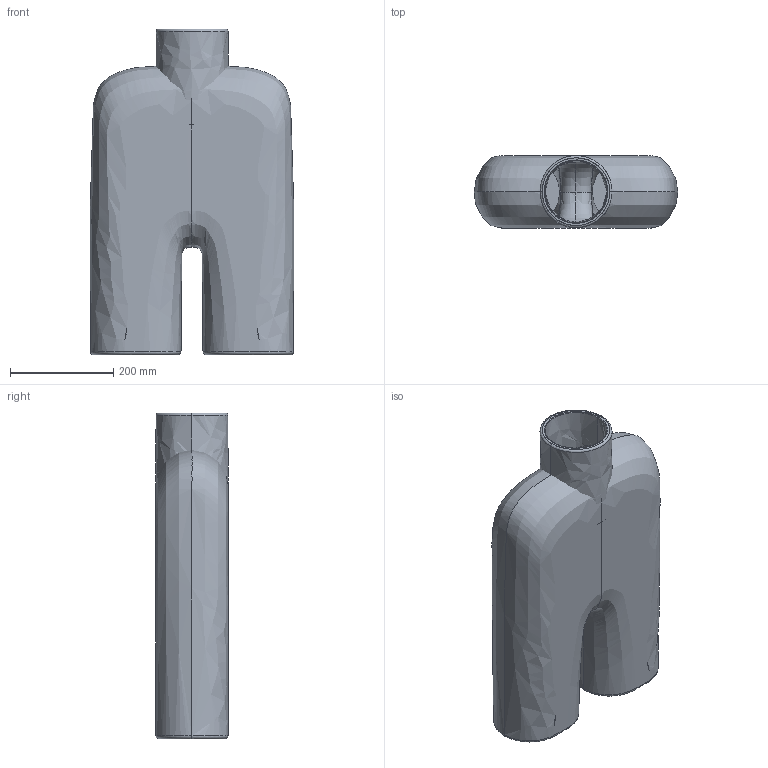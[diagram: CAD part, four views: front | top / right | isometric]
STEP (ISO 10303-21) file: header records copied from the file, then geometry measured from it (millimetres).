
FILE_DESCRIPTION(/* description */ (''),/* implementation_level */ '2;1');
FILE_NAME(/* name */ 'Cobra Tall Hexa',/* time_stamp */ '2021-01-26T12:53:27+01:00',/* author */ (''),/* organization */ (''),/* preprocessor_version */ 'ST-DEVELOPER v15',/* originating_system */ '',/* authorisation */ '');
FILE_SCHEMA (('AUTOMOTIVE_DESIGN'));
Length unit declared in the file: millimetre
Products named in the file (1): Document
Bounding box: 393.68 x 140.01 x 630.09 mm (x, y, z)
Surface area: 1191427.2 mm2 (no closed solid volume)
Topology: 0 solids, 7 shells, 71 faces, 172 edges, 102 vertices
Faces by surface type: bspline 68, plane 3
Entity records: 59709 total; most frequent: CARTESIAN_POINT 58793, ORIENTED_EDGE 300, EDGE_CURVE 172, VERTEX_POINT 102, EDGE_LOOP 72, ADVANCED_FACE 71, FACE_OUTER_BOUND 71, B_SPLINE_CURVE_WITH_KNOTS 18
